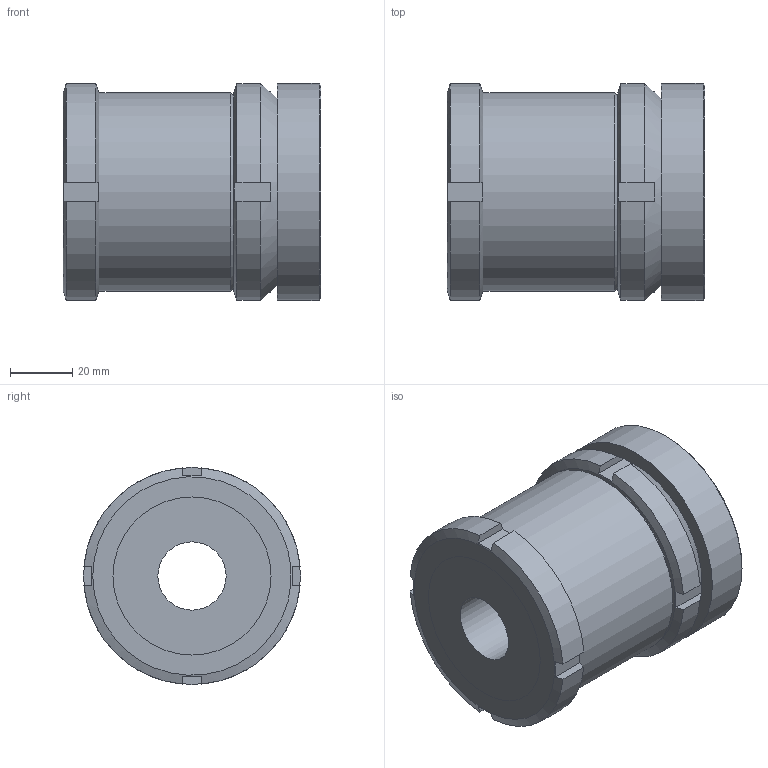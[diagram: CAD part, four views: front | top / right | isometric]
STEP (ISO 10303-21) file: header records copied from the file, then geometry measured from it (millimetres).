
FILE_DESCRIPTION( ( 'STEP AP203' ), '1' );
FILE_NAME( 'C:/Temp/Ganter_Step_05_03_2020/data/3_2/gn350_2/gn_350_2_ni/Stainless Steel-Levelling set GN 350.2-70-22-83-NI (0-0).stp', '2020-03-13T05:28:14', ( 'License CC BY-ND 4.0' ), ( 'CADENAS' ), ' ', 'PARTsolutions', ' ' );
FILE_SCHEMA( ( 'CONFIG_CONTROL_DESIGN' ) );
Length unit declared in the file: millimetre
Products named in the file (4): Stainless Steel-Levelling set GN 350.2-70-22-83-NI (0-0); _Levelling set GN 350.2-70-22-83-ST-G; _Levelling set GN 350.2-70-22-83-ST-K; _Levelling set GN 350.2-70-22-83-ST-P(0)
Assembly tree (3 placements, depth 2):
  Stainless Steel-Levelling set GN 350.2-70-22-83-NI (0-0)
    _Levelling set GN 350.2-70-22-83-ST-G
    _Levelling set GN 350.2-70-22-83-ST-K
    _Levelling set GN 350.2-70-22-83-ST-P(0)
Bounding box: 83 x 70 x 70 mm (x, y, z)
Volume: 249012 mm3; surface area: 58342.9 mm2
Topology: 3 solids, 3 shells, 62 faces, 149 edges, 99 vertices
Faces by surface type: plane 36, cylinder 19, cone 5, sphere 2
Full cylindrical faces by diameter (mm): 22 x1, 40 x1, 43.529 x1, 44.5 x1, 48.376 x1, 49 x1, 50 x1, 51 x2, 64 x1, 70 x1
Entity records: 1925 total; most frequent: CARTESIAN_POINT 462, DIRECTION 276, ORIENTED_EDGE 248, EDGE_CURVE 124, AXIS2_PLACEMENT_3D 122, EDGE_LOOP 92, VERTEX_POINT 92, FACE_OUTER_BOUND 75
